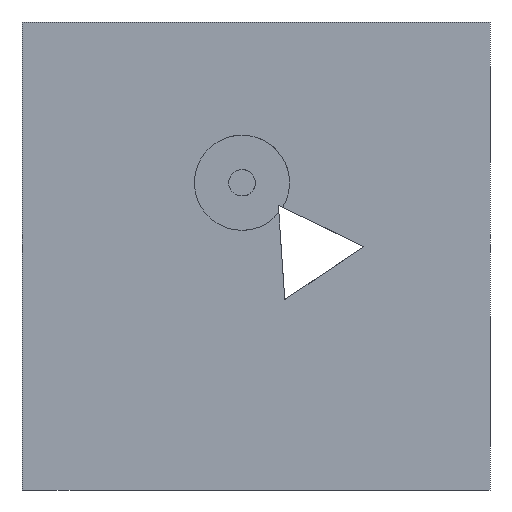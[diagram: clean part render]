
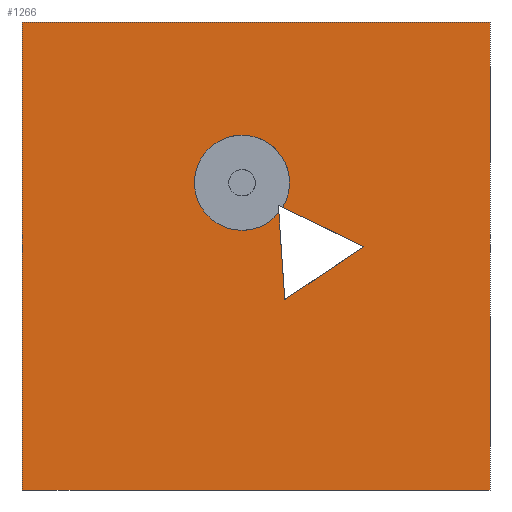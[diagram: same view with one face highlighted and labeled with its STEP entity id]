
A CAD part, front view. The second image highlights one B-rep face of the part: STEP entity #1266.
In plain terms, the highlighted planar face has unit normal (0, -1, 0).
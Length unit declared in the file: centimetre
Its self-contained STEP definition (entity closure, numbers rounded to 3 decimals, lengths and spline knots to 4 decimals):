
#2 = CARTESIAN_POINT ( 'NONE',  ( 729.7565, 0., 519.7516 ) ) ;
#57 = CARTESIAN_POINT ( 'NONE',  ( 470.1484, 0., 656.5057 ) ) ;
#100 = VECTOR ( 'NONE', #694, 100. ) ;
#134 = ORIENTED_EDGE ( 'NONE', *, *, #1195, .F. ) ;
#141 = EDGE_CURVE ( 'NONE', #1514, #1814, #1302, .T. ) ;
#147 = LINE ( 'NONE', #1268, #377 ) ;
#203 = CARTESIAN_POINT ( 'NONE',  ( 470.1484, 0., 554.8044 ) ) ;
#216 = EDGE_LOOP ( 'NONE', ( #1590, #1449, #1834, #1684 ) ) ;
#232 = CARTESIAN_POINT ( 'NONE',  ( 0., 0., 1000. ) ) ;
#251 = CARTESIAN_POINT ( 'NONE',  ( 0., 0., 1000. ) ) ;
#276 = VERTEX_POINT ( 'NONE', #825 ) ;
#277 = EDGE_CURVE ( 'NONE', #1139, #1142, #1008, .T. ) ;
#291 = LINE ( 'NONE', #1524, #1036 ) ;
#341 = EDGE_CURVE ( 'NONE', #1514, #735, #1638, .T. ) ;
#372 = AXIS2_PLACEMENT_3D ( 'NONE', #700, #1327, #1318 ) ;
#377 = VECTOR ( 'NONE', #2005, 100. ) ;
#391 = VERTEX_POINT ( 'NONE', #758 ) ;
#474 = ORIENTED_EDGE ( 'NONE', *, *, #986, .F. ) ;
#491 = CARTESIAN_POINT ( 'NONE',  ( 557.3545, 0., 604.1775 ) ) ;
#540 = EDGE_CURVE ( 'NONE', #735, #1916, #1599, .T. ) ;
#541 = CARTESIAN_POINT ( 'NONE',  ( 1000., 0., 1000. ) ) ;
#559 = DIRECTION ( 'NONE',  ( 0., 1., 0. ) ) ;
#590 = VERTEX_POINT ( 'NONE', #491 ) ;
#604 = AXIS2_PLACEMENT_3D ( 'NONE', #1329, #559, #1176 ) ;
#625 = CARTESIAN_POINT ( 'NONE',  ( 561.5216, 0., 406.6648 ) ) ;
#674 = DIRECTION ( 'NONE',  ( 0., -1., 0. ) ) ;
#694 = DIRECTION ( 'NONE',  ( 1., 0., 0. ) ) ;
#700 = CARTESIAN_POINT ( 'NONE',  ( 470.1484, 0., 656.5057 ) ) ;
#712 = PLANE ( 'NONE',  #604 ) ;
#726 = DIRECTION ( 'NONE',  ( 0., 0., -1. ) ) ;
#735 = VERTEX_POINT ( 'NONE', #1384 ) ;
#758 = CARTESIAN_POINT ( 'NONE',  ( 470.1484, 0., 758.207 ) ) ;
#772 = CIRCLE ( 'NONE', #1033, 101.7013 ) ;
#789 = LINE ( 'NONE', #2, #1650 ) ;
#794 = EDGE_CURVE ( 'NONE', #1315, #276, #291, .T. ) ;
#806 = DIRECTION ( 'NONE',  ( 0.068, 0., -0.998 ) ) ;
#825 = CARTESIAN_POINT ( 'NONE',  ( 729.7565, 0., 519.7516 ) ) ;
#832 = DIRECTION ( 'NONE',  ( 0., -1., 0. ) ) ;
#855 = DIRECTION ( 'NONE',  ( 0., 0., -1. ) ) ;
#856 = CIRCLE ( 'NONE', #372, 101.7013 ) ;
#857 = ORIENTED_EDGE ( 'NONE', *, *, #1863, .F. ) ;
#905 = ORIENTED_EDGE ( 'NONE', *, *, #277, .F. ) ;
#932 = CARTESIAN_POINT ( 'NONE',  ( 547.703, 0., 608.9039 ) ) ;
#951 = DIRECTION ( 'NONE',  ( -0.898, 0., 0.44 ) ) ;
#968 = EDGE_LOOP ( 'NONE', ( #134, #1011, #1892, #474, #905, #857 ) ) ;
#986 = EDGE_CURVE ( 'NONE', #1142, #1315, #1397, .T. ) ;
#1008 = CIRCLE ( 'NONE', #1167, 101.7013 ) ;
#1011 = ORIENTED_EDGE ( 'NONE', *, *, #1051, .F. ) ;
#1033 = AXIS2_PLACEMENT_3D ( 'NONE', #1440, #832, #855 ) ;
#1036 = VECTOR ( 'NONE', #1337, 100. ) ;
#1051 = EDGE_CURVE ( 'NONE', #276, #590, #789, .T. ) ;
#1113 = DIRECTION ( 'NONE',  ( 1., 0., 0. ) ) ;
#1139 = VERTEX_POINT ( 'NONE', #203 ) ;
#1142 = VERTEX_POINT ( 'NONE', #1435 ) ;
#1151 = FACE_BOUND ( 'NONE', #968, .T. ) ;
#1159 = FACE_OUTER_BOUND ( 'NONE', #216, .T. ) ;
#1167 = AXIS2_PLACEMENT_3D ( 'NONE', #57, #674, #726 ) ;
#1176 = DIRECTION ( 'NONE',  ( 0., 0., 1. ) ) ;
#1195 = EDGE_CURVE ( 'NONE', #590, #391, #772, .T. ) ;
#1224 = VECTOR ( 'NONE', #1486, 100. ) ;
#1266 = ADVANCED_FACE ( 'NONE', ( #1151, #1159 ), #712, .F. ) ;
#1268 = CARTESIAN_POINT ( 'NONE',  ( 1000., 0., 1000. ) ) ;
#1282 = CARTESIAN_POINT ( 'NONE',  ( 0., 0., 0. ) ) ;
#1294 = EDGE_CURVE ( 'NONE', #1814, #1916, #147, .T. ) ;
#1302 = LINE ( 'NONE', #232, #100 ) ;
#1315 = VERTEX_POINT ( 'NONE', #625 ) ;
#1318 = DIRECTION ( 'NONE',  ( 0., 0., -1. ) ) ;
#1325 = VECTOR ( 'NONE', #1113, 100. ) ;
#1327 = DIRECTION ( 'NONE',  ( 0., -1., 0. ) ) ;
#1329 = CARTESIAN_POINT ( 'NONE',  ( 0., 0., 1000. ) ) ;
#1337 = DIRECTION ( 'NONE',  ( 0.83, 0., 0.558 ) ) ;
#1384 = CARTESIAN_POINT ( 'NONE',  ( 0., 0., 0. ) ) ;
#1397 = LINE ( 'NONE', #932, #1678 ) ;
#1435 = CARTESIAN_POINT ( 'NONE',  ( 548.8516, 0., 592.0933 ) ) ;
#1440 = CARTESIAN_POINT ( 'NONE',  ( 470.1484, 0., 656.5057 ) ) ;
#1449 = ORIENTED_EDGE ( 'NONE', *, *, #1294, .F. ) ;
#1486 = DIRECTION ( 'NONE',  ( 0., 0., -1. ) ) ;
#1492 = CARTESIAN_POINT ( 'NONE',  ( 1000., 0., 0. ) ) ;
#1514 = VERTEX_POINT ( 'NONE', #1745 ) ;
#1524 = CARTESIAN_POINT ( 'NONE',  ( 561.5216, 0., 406.6648 ) ) ;
#1590 = ORIENTED_EDGE ( 'NONE', *, *, #540, .T. ) ;
#1599 = LINE ( 'NONE', #1282, #1325 ) ;
#1638 = LINE ( 'NONE', #251, #1224 ) ;
#1650 = VECTOR ( 'NONE', #951, 100. ) ;
#1678 = VECTOR ( 'NONE', #806, 100. ) ;
#1684 = ORIENTED_EDGE ( 'NONE', *, *, #341, .T. ) ;
#1745 = CARTESIAN_POINT ( 'NONE',  ( 0., 0., 1000. ) ) ;
#1814 = VERTEX_POINT ( 'NONE', #541 ) ;
#1834 = ORIENTED_EDGE ( 'NONE', *, *, #141, .F. ) ;
#1863 = EDGE_CURVE ( 'NONE', #391, #1139, #856, .T. ) ;
#1892 = ORIENTED_EDGE ( 'NONE', *, *, #794, .F. ) ;
#1916 = VERTEX_POINT ( 'NONE', #1492 ) ;
#2005 = DIRECTION ( 'NONE',  ( 0., 0., -1. ) ) ;
